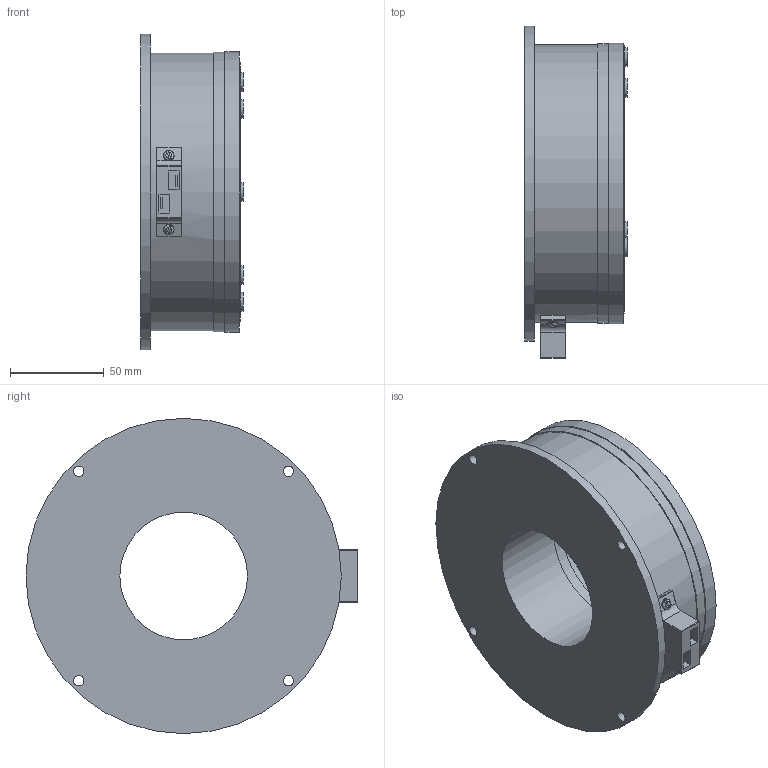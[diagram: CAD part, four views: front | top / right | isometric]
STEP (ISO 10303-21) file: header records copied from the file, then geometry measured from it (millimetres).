
FILE_DESCRIPTION(/* description */ (''),/* implementation_level */ '2;1');
FILE_NAME(/* name */ 'X:\INVENTOR\DISEGNI\08_Freni_Friz_Elettmag_Monodisco\08_28 EMFL_DF\EMFL_DF STEP\08_28_150_11 EMFL150_DF-B_S@STEP.stp',/* time_stamp */ '2018-04-23T15:57:47+02:00',/* author */ ('stefano'),/* organization */ (''),/* preprocessor_version */ 'ST-DEVELOPER v17',/* originating_system */ 'Autodesk Inventor 2018',/* authorisation */ '');
FILE_SCHEMA (('AUTOMOTIVE_DESIGN { 1 0 10303 214 3 1 1 }'));
Length unit declared in the file: millimetre
Products named in the file (1): 08_28_150_11 EMFL150_DF-B - Spina_Substitute_1
Bounding box: 54.5 x 176.89 x 168 mm (x, y, z)
Volume: 576022.3 mm3; surface area: 149498.6 mm2
Topology: 2 solids, 2 shells, 385 faces, 1083 edges, 690 vertices
Faces by surface type: cylinder 221, plane 103, torus 28, sphere 20, cone 13
Full cylindrical faces by diameter (mm): 2.2 x6, 5.5 x4, 5.6 x2, 6 x1, 7.5 x6, 8.1 x3, 10 x12, 68 x2, 74 x1, 95 x1, 96 x2, 126 x2, 132 x1, 148 x1, 149 x1, 149.5 x1, 168 x1
Entity records: 13527 total; most frequent: CARTESIAN_POINT 2539, DIRECTION 2470, ORIENTED_EDGE 2126, EDGE_CURVE 1063, AXIS2_PLACEMENT_3D 1054, VERTEX_POINT 690, CIRCLE 668, EDGE_LOOP 467
